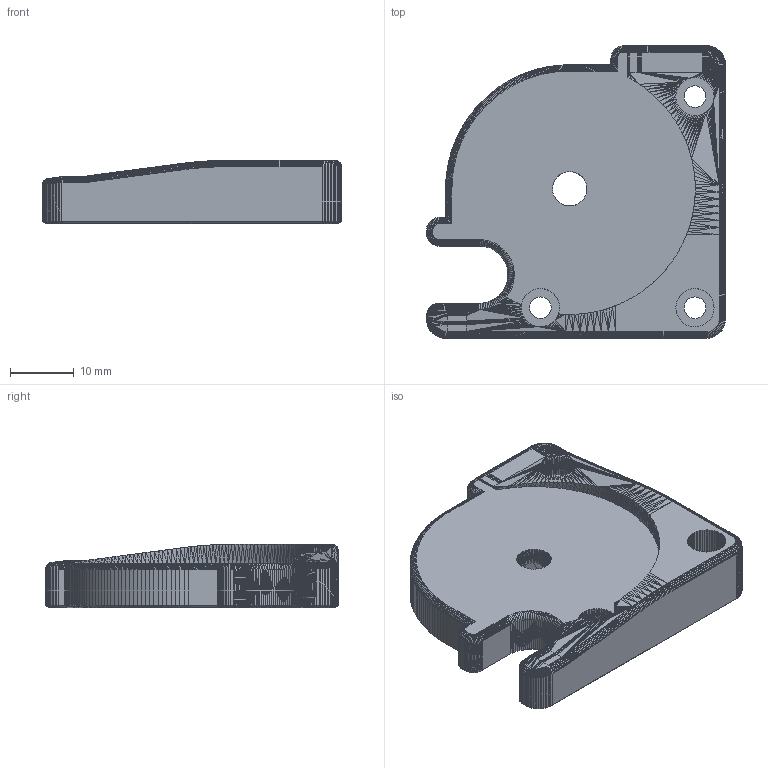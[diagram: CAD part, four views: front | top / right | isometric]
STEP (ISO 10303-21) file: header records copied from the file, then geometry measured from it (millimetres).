
FILE_DESCRIPTION(('Open CASCADE Model'),'2;1');
FILE_NAME('Open CASCADE Shape Model','2026-11-22T23:46:19',('Author'),( 'Open CASCADE'),'Open CASCADE STEP processor 8.0','Open CASCADE 8.0' ,'Unknown');
FILE_SCHEMA(('AUTOMOTIVE_DESIGN { 1 0 10303 214 1 1 1 1 }'));
Products named in the file (1): [a]_z_drive_baseplate_b_plus3mm_x2
Bounding box: 47 x 46 x 10 mm (x, y, z)
Volume: 12862.9 mm3; surface area: 5596 mm2
Topology: 1 solids, 1 shells, 9022 faces, 14576 edges, 5557 vertices
Faces by surface type: plane 9022
Entity records: 374846 total; most frequent: DIRECTION 61774, CARTESIAN_POINT 58308, LINE 43728, VECTOR 43728, ORIENTED_EDGE 29152, PCURVE 29152, DEFINITIONAL_REPRESENTATION 29152, EDGE_CURVE 14576
